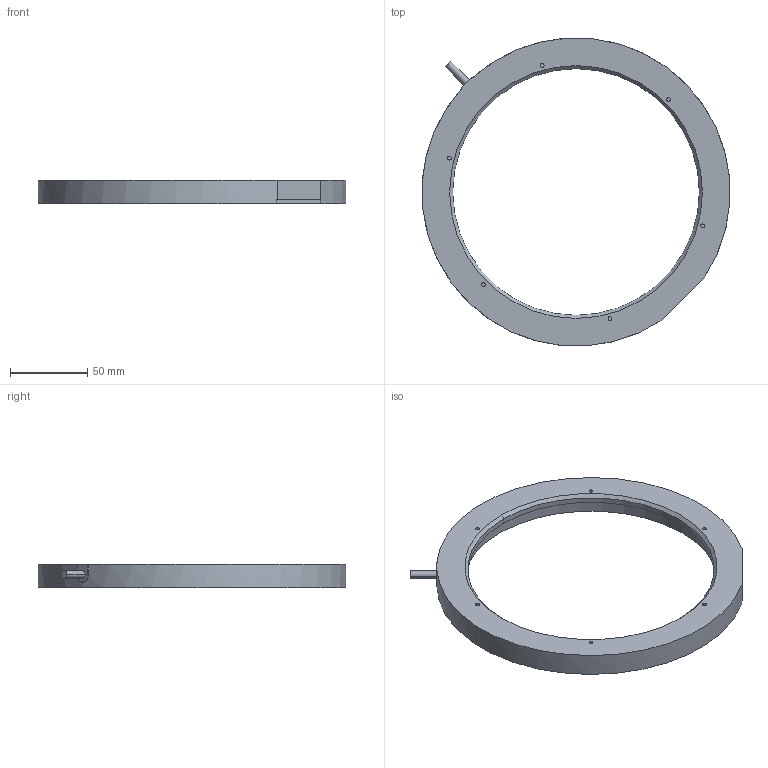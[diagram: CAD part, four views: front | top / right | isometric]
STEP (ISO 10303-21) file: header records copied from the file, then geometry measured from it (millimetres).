
FILE_DESCRIPTION((''),'2;1');
FILE_NAME('200-00','2024-03-29T18:17:24',('qiaoxuan5'),(''),'CREO PARAMETRIC BY PTC INC, 2020044','CREO PARAMETRIC BY PTC INC, 2020044','');
FILE_SCHEMA(('CONFIG_CONTROL_DESIGN'));
Length unit declared in the file: millimetre
Products named in the file (1): 200-00
Bounding box: 199.64 x 199.64 x 15 mm (x, y, z)
Volume: 148796.4 mm3; surface area: 45368.2 mm2
Topology: 1 solids, 8 shells, 318 faces, 718 edges, 428 vertices
Faces by surface type: plane 174, cylinder 89, cone 40, torus 13, sphere 2
Entity records: 8915 total; most frequent: CARTESIAN_POINT 1714, DIRECTION 1534, ORIENTED_EDGE 1432, EDGE_CURVE 716, AXIS2_PLACEMENT_3D 551, VECTOR 432, LINE 432, VERTEX_POINT 428
